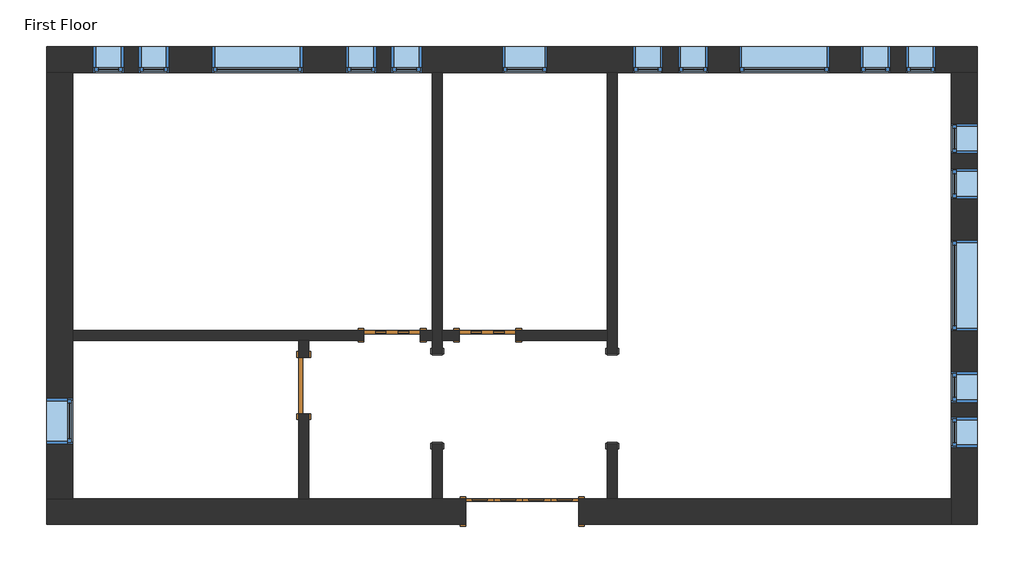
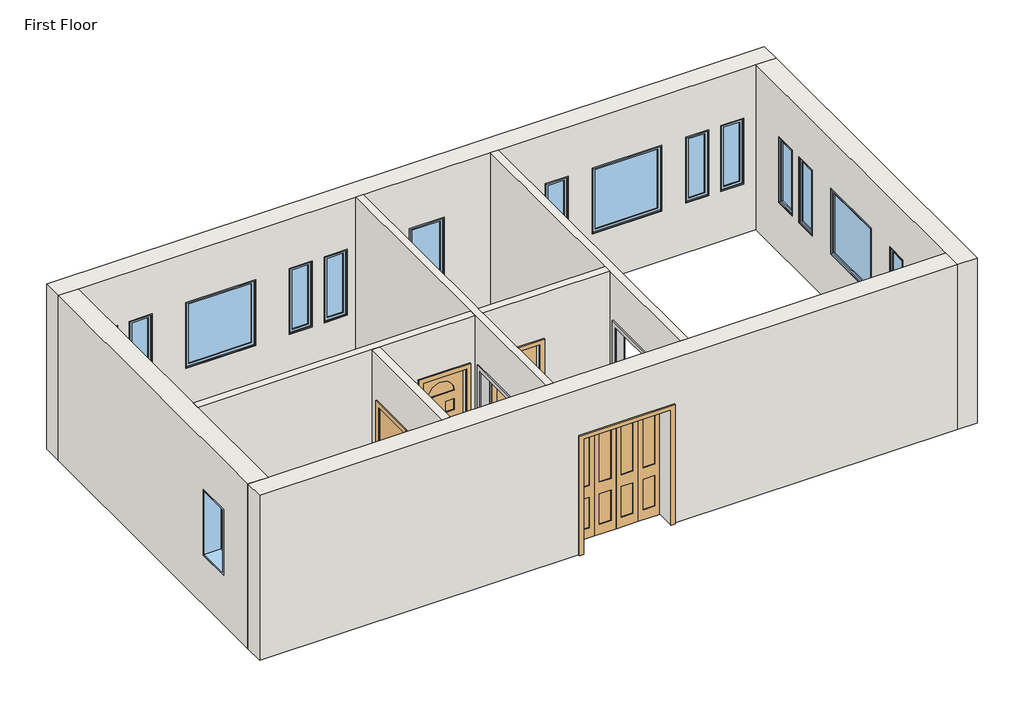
# One storey: 17 windows, 8 walls, 4 doors, 2 proxies.
"""IFC4 building model written with IfcOpenShell, lengths in millimetres."""

from ifc_helpers import new_model, si_unit, frame, origin, place, context, project, spatial, polyline, outline, extrude, faceted_brep, transform, mapped, element, save
from components import m_passage_opening_cased_1220_x_2134mm_87a8d9c2, m_bifold_4_panel_1525_x_2134mm_1ddae71f, m_single_decorative_2_0762_x_2134mm_0d0af7cb, m_single_decorative_2_0762_x_2134mm_2fe67c8e, m_single_flush_0762_x_2134mm_0d89e411, m_fixed_0406_x_1220mm_57fee329, m_fixed_0406_x_1220mm_85c28f40, m_fixed_0610_x_1220mm_2c28ef1d, m_fixed_1220_x_1220mm_e08ff7af

model = new_model("IFC4")

# Units and contexts
model_context = context("Model", 3, world=origin())
ifc_project = project(units=[si_unit("LENGTHUNIT", "METRE", prefix="MILLI")], contexts=[model_context])

# Site, building, storey
site = spatial("IfcSite", under=ifc_project)
building = spatial("IfcBuilding", under=site)
storey = spatial("IfcBuildingStorey", under=building, Name="First Floor", Elevation=0.0)

# Proxies
placement = place(None, origin())
m_passage_opening_cased_1220_x_2134mm_shape = m_passage_opening_cased_1220_x_2134mm_87a8d9c2(model_context)
element("IfcBuildingElementProxy", 1, Name="M_Passage Opening-Cased : 1220 x 2134mm", ObjectType="M_Passage Opening-Cased : 1220 x 2134mm", at=placement, inside=storey, context=model_context, shape_type="MappedRepresentation", body=[
    mapped(m_passage_opening_cased_1220_x_2134mm_shape, transform((-7665.3416203, -1982.6925047, 0.0), x_axis=(0.0, 1.0, 0.0), y_axis=(-1.0, 0.0, 0.0), z_axis=(0.0, 0.0, 1.0))),
])
element("IfcBuildingElementProxy", 2, Name="M_Passage Opening-Cased : 1220 x 2134mm", ObjectType="M_Passage Opening-Cased : 1220 x 2134mm", at=placement, inside=storey, context=model_context, shape_type="MappedRepresentation", body=[
    mapped(m_passage_opening_cased_1220_x_2134mm_shape, transform((-10019.0916203, -1999.0698181, 0.0), x_axis=(0.0, -1.0, 0.0), y_axis=(1.0, 0.0, 0.0), z_axis=(0.0, 0.0, 1.0))),
])

# Doors
m_bifold_4_panel_1525_x_2134mm_shape = m_bifold_4_panel_1525_x_2134mm_1ddae71f(model_context)
element("IfcDoor", 3, ObjectType="M_Bifold-4 Panel : 1525 x 2134mm", at=placement, inside=storey, context=model_context, shape_type="MappedRepresentation", body=[
    mapped(m_bifold_4_panel_1525_x_2134mm_shape, transform((-8876.0916203, -3514.8811614, 0.0), x_axis=(1.0, 0.0, 0.0), y_axis=(0.0, 1.0, 0.0), z_axis=(0.0, 0.0, 1.0))),
])
m_single_decorative_2_0762_x_2134mm_shape = m_single_decorative_2_0762_x_2134mm_0d0af7cb(model_context)
element("IfcDoor", 4, ObjectType="M_Single-Decorative 2 : 0762 x 2134mm", at=placement, inside=storey, context=model_context, shape_type="MappedRepresentation", body=[
    mapped(m_single_decorative_2_0762_x_2134mm_shape, transform((-9342.3416203, -1138.1311614, 0.0), x_axis=(-1.0, 0.0, 0.0), y_axis=(0.0, -1.0, 0.0), z_axis=(0.0, 0.0, 1.0))),
])
m_single_decorative_2_0762_x_2134mm_2_shape = m_single_decorative_2_0762_x_2134mm_2fe67c8e(model_context)
element("IfcDoor", 5, ObjectType="M_Single-Decorative 2 : 0762 x 2134mm", at=placement, inside=storey, context=model_context, shape_type="MappedRepresentation", body=[
    mapped(m_single_decorative_2_0762_x_2134mm_2_shape, transform((-10629.0916203, -1138.1311614, 0.0), x_axis=(1.0, 0.0, 0.0), y_axis=(0.0, 1.0, 0.0), z_axis=(0.0, 0.0, 1.0))),
])
m_single_flush_0762_x_2134mm_shape = m_single_flush_0762_x_2134mm_0d89e411(model_context)
element("IfcDoor", 6, ObjectType="M_Single-Flush : 0762 x 2134mm", at=placement, inside=storey, context=model_context, shape_type="MappedRepresentation", body=[
    mapped(m_single_flush_0762_x_2134mm_shape, transform((-11819.5916203, -1815.8811614, 0.0), x_axis=(0.0, 1.0, 0.0), y_axis=(-1.0, 0.0, 0.0), z_axis=(0.0, 0.0, 1.0))),
])

# Walls
element("IfcWall", 7, ObjectType="Exterior - Brick on Mtl. Stud", at=placement, inside=storey, context=model_context, shape_type="Brep", body=[
    faceted_brep([(-15285.3416203, 2406.1188386, 0.0), (-14935.3416203, 2406.1188386, 0.0), (-10086.8416203, 2406.1188386, 0.0), (-9951.3416203, 2406.1188386, 0.0), (-7733.0916203, 2406.1188386, 0.0), (-7597.5916203, 2406.1188386, 0.0), (-3093.3416203, 2406.1188386, 0.0), (-2743.3416203, 2406.1188386, 0.0), (-2743.3416203, 2406.1188386, 3048.0), (-3093.3416203, 2406.1188386, 3048.0), (-7597.5916203, 2406.1188386, 3048.0), (-7733.0916203, 2406.1188386, 3048.0), (-9951.3416203, 2406.1188386, 3048.0), (-10086.8416203, 2406.1188386, 3048.0), (-14935.3416203, 2406.1188386, 3048.0), (-15285.3416203, 2406.1188386, 3048.0), (-8537.1916203, 2406.1188386, 915.0), (-9147.1916203, 2406.1188386, 915.0), (-9147.1916203, 2406.1188386, 2135.0), (-8537.1916203, 2406.1188386, 2135.0), (-11833.3416203, 2406.1188386, 915.0), (-13053.3416203, 2406.1188386, 915.0), (-13053.3416203, 2406.1188386, 2135.0), (-11833.3416203, 2406.1188386, 2135.0), (-4735.4666203, 2406.1188386, 915.0), (-5955.4666203, 2406.1188386, 915.0), (-5955.4666203, 2406.1188386, 2135.0), (-4735.4666203, 2406.1188386, 2135.0), (-14247.3416203, 2406.1188386, 915.0), (-14653.3416203, 2406.1188386, 915.0), (-14653.3416203, 2406.1188386, 2135.0), (-14247.3416203, 2406.1188386, 2135.0), (-13637.3416203, 2406.1188386, 915.0), (-14043.3416203, 2406.1188386, 915.0), (-14043.3416203, 2406.1188386, 2135.0), (-13637.3416203, 2406.1188386, 2135.0), (-11249.3416203, 2406.1188386, 915.0), (-11249.3416203, 2406.1188386, 2135.0), (-10843.3416203, 2406.1188386, 2135.0), (-10843.3416203, 2406.1188386, 915.0), (-10639.3416203, 2406.1188386, 915.0), (-10639.3416203, 2406.1188386, 2135.0), (-10233.3416203, 2406.1188386, 2135.0), (-10233.3416203, 2406.1188386, 915.0), (-6370.3416203, 2406.1188386, 915.0), (-6776.3416203, 2406.1188386, 915.0), (-6776.3416203, 2406.1188386, 2135.0), (-6370.3416203, 2406.1188386, 2135.0), (-6980.3416203, 2406.1188386, 915.0), (-7386.3416203, 2406.1188386, 915.0), (-7386.3416203, 2406.1188386, 2135.0), (-6980.3416203, 2406.1188386, 2135.0), (-4320.5916203, 2406.1188386, 915.0), (-4320.5916203, 2406.1188386, 2135.0), (-3914.5916203, 2406.1188386, 2135.0), (-3914.5916203, 2406.1188386, 915.0), (-3710.5916203, 2406.1188386, 915.0), (-3710.5916203, 2406.1188386, 2135.0), (-3304.5916203, 2406.1188386, 2135.0), (-3304.5916203, 2406.1188386, 915.0), (-15285.3416203, 2756.1188386, 0.0), (-15285.3416203, 2756.1188386, 3048.0), (-2743.3416203, 2756.1188386, 3048.0), (-2743.3416203, 2756.1188386, 0.0), (-8537.1916203, 2756.1188386, 915.0), (-8537.1916203, 2756.1188386, 2135.0), (-9147.1916203, 2756.1188386, 2135.0), (-9147.1916203, 2756.1188386, 915.0), (-11833.3416203, 2756.1188386, 915.0), (-11833.3416203, 2756.1188386, 2135.0), (-13053.3416203, 2756.1188386, 2135.0), (-13053.3416203, 2756.1188386, 915.0), (-4735.4666203, 2756.1188386, 915.0), (-4735.4666203, 2756.1188386, 2135.0), (-5955.4666203, 2756.1188386, 2135.0), (-5955.4666203, 2756.1188386, 915.0), (-14247.3416203, 2756.1188386, 915.0), (-14247.3416203, 2756.1188386, 2135.0), (-14653.3416203, 2756.1188386, 2135.0), (-14653.3416203, 2756.1188386, 915.0), (-13637.3416203, 2756.1188386, 915.0), (-13637.3416203, 2756.1188386, 2135.0), (-14043.3416203, 2756.1188386, 2135.0), (-14043.3416203, 2756.1188386, 915.0), (-11249.3416203, 2756.1188386, 915.0), (-10843.3416203, 2756.1188386, 915.0), (-10843.3416203, 2756.1188386, 2135.0), (-11249.3416203, 2756.1188386, 2135.0), (-10639.3416203, 2756.1188386, 915.0), (-10233.3416203, 2756.1188386, 915.0), (-10233.3416203, 2756.1188386, 2135.0), (-10639.3416203, 2756.1188386, 2135.0), (-6370.3416203, 2756.1188386, 915.0), (-6370.3416203, 2756.1188386, 2135.0), (-6776.3416203, 2756.1188386, 2135.0), (-6776.3416203, 2756.1188386, 915.0), (-6980.3416203, 2756.1188386, 915.0), (-6980.3416203, 2756.1188386, 2135.0), (-7386.3416203, 2756.1188386, 2135.0), (-7386.3416203, 2756.1188386, 915.0), (-4320.5916203, 2756.1188386, 915.0), (-3914.5916203, 2756.1188386, 915.0), (-3914.5916203, 2756.1188386, 2135.0), (-4320.5916203, 2756.1188386, 2135.0), (-3710.5916203, 2756.1188386, 915.0), (-3304.5916203, 2756.1188386, 915.0), (-3304.5916203, 2756.1188386, 2135.0), (-3710.5916203, 2756.1188386, 2135.0)], [[[0, 1, 2, 3, 4, 5, 6, 7, 8, 9, 10, 11, 12, 13, 14, 15], [16, 17, 18, 19], [20, 21, 22, 23], [24, 25, 26, 27], [28, 29, 30, 31], [32, 33, 34, 35], [36, 37, 38, 39], [40, 41, 42, 43], [44, 45, 46, 47], [48, 49, 50, 51], [52, 53, 54, 55], [56, 57, 58, 59]], [[60, 61, 62, 63], [64, 65, 66, 67], [68, 69, 70, 71], [72, 73, 74, 75], [76, 77, 78, 79], [80, 81, 82, 83], [84, 85, 86, 87], [88, 89, 90, 91], [92, 93, 94, 95], [96, 97, 98, 99], [100, 101, 102, 103], [104, 105, 106, 107]], [[7, 6, 5, 4, 3, 2, 1, 0, 60, 63]], [[15, 14, 13, 12, 11, 10, 9, 8, 62, 61]], [[8, 7, 63, 62]], [[0, 15, 61, 60]], [[65, 64, 16, 19]], [[66, 65, 19, 18]], [[67, 66, 18, 17]], [[64, 67, 17, 16]], [[69, 68, 20, 23]], [[70, 69, 23, 22]], [[71, 70, 22, 21]], [[68, 71, 21, 20]], [[73, 72, 24, 27]], [[74, 73, 27, 26]], [[75, 74, 26, 25]], [[72, 75, 25, 24]], [[77, 76, 28, 31]], [[78, 77, 31, 30]], [[79, 78, 30, 29]], [[76, 79, 29, 28]], [[81, 80, 32, 35]], [[82, 81, 35, 34]], [[83, 82, 34, 33]], [[80, 83, 33, 32]], [[37, 36, 84, 87]], [[38, 37, 87, 86]], [[39, 38, 86, 85]], [[36, 39, 85, 84]], [[41, 40, 88, 91]], [[42, 41, 91, 90]], [[43, 42, 90, 89]], [[40, 43, 89, 88]], [[93, 92, 44, 47]], [[94, 93, 47, 46]], [[95, 94, 46, 45]], [[92, 95, 45, 44]], [[97, 96, 48, 51]], [[98, 97, 51, 50]], [[99, 98, 50, 49]], [[96, 99, 49, 48]], [[53, 52, 100, 103]], [[54, 53, 103, 102]], [[55, 54, 102, 101]], [[52, 55, 101, 100]], [[57, 56, 104, 107]], [[58, 57, 107, 106]], [[59, 58, 106, 105]], [[56, 59, 105, 104]]]),
])
element("IfcWall", 8, ObjectType="Exterior - Brick on Mtl. Stud", at=placement, inside=storey, context=model_context, shape_type="Brep", body=[
    faceted_brep([(-3093.3416203, 2406.1188386, 0.0), (-3093.3416203, -3339.8811614, 0.0), (-3093.3416203, -3689.8811614, 0.0), (-3093.3416203, -3689.8811614, 3048.0), (-3093.3416203, -3339.8811614, 3048.0), (-3093.3416203, 2406.1188386, 3048.0), (-3093.3416203, -1076.8811614, 915.0), (-3093.3416203, 143.1188386, 915.0), (-3093.3416203, 143.1188386, 2135.0), (-3093.3416203, -1076.8811614, 2135.0), (-3093.3416203, 701.1188386, 915.0), (-3093.3416203, 1107.1188386, 915.0), (-3093.3416203, 1107.1188386, 2135.0), (-3093.3416203, 701.1188386, 2135.0), (-3093.3416203, 1311.1188386, 915.0), (-3093.3416203, 1717.1188386, 915.0), (-3093.3416203, 1717.1188386, 2135.0), (-3093.3416203, 1311.1188386, 2135.0), (-3093.3416203, -1634.8811614, 915.0), (-3093.3416203, -1634.8811614, 2135.0), (-3093.3416203, -2040.8811614, 2135.0), (-3093.3416203, -2040.8811614, 915.0), (-3093.3416203, -2244.8811614, 915.0), (-3093.3416203, -2244.8811614, 2135.0), (-3093.3416203, -2650.8811614, 2135.0), (-3093.3416203, -2650.8811614, 915.0), (-2743.3416203, 2406.1188386, 0.0), (-2743.3416203, 2406.1188386, 3048.0), (-2743.3416203, -3689.8811614, 3048.0), (-2743.3416203, -3689.8811614, 0.0), (-2743.3416203, -1076.8811614, 915.0), (-2743.3416203, -1076.8811614, 2135.0), (-2743.3416203, 143.1188386, 2135.0), (-2743.3416203, 143.1188386, 915.0), (-2743.3416203, 701.1188386, 915.0), (-2743.3416203, 701.1188386, 2135.0), (-2743.3416203, 1107.1188386, 2135.0), (-2743.3416203, 1107.1188386, 915.0), (-2743.3416203, 1311.1188386, 915.0), (-2743.3416203, 1311.1188386, 2135.0), (-2743.3416203, 1717.1188386, 2135.0), (-2743.3416203, 1717.1188386, 915.0), (-2743.3416203, -1634.8811614, 915.0), (-2743.3416203, -2040.8811614, 915.0), (-2743.3416203, -2040.8811614, 2135.0), (-2743.3416203, -1634.8811614, 2135.0), (-2743.3416203, -2244.8811614, 915.0), (-2743.3416203, -2650.8811614, 915.0), (-2743.3416203, -2650.8811614, 2135.0), (-2743.3416203, -2244.8811614, 2135.0)], [[[0, 1, 2, 3, 4, 5], [6, 7, 8, 9], [10, 11, 12, 13], [14, 15, 16, 17], [18, 19, 20, 21], [22, 23, 24, 25]], [[26, 27, 28, 29], [30, 31, 32, 33], [34, 35, 36, 37], [38, 39, 40, 41], [42, 43, 44, 45], [46, 47, 48, 49]], [[2, 1, 0, 26, 29]], [[5, 4, 3, 28, 27]], [[0, 5, 27, 26]], [[3, 2, 29, 28]], [[31, 30, 6, 9]], [[32, 31, 9, 8]], [[33, 32, 8, 7]], [[30, 33, 7, 6]], [[35, 34, 10, 13]], [[36, 35, 13, 12]], [[37, 36, 12, 11]], [[34, 37, 11, 10]], [[39, 38, 14, 17]], [[40, 39, 17, 16]], [[41, 40, 16, 15]], [[38, 41, 15, 14]], [[19, 18, 42, 45]], [[20, 19, 45, 44]], [[21, 20, 44, 43]], [[18, 21, 43, 42]], [[23, 22, 46, 49]], [[24, 23, 49, 48]], [[25, 24, 48, 47]], [[22, 25, 47, 46]]]),
])
element("IfcWall", 9, ObjectType="Exterior - Brick on Mtl. Stud", at=placement, inside=storey, context=model_context, shape_type="Brep", body=[
    faceted_brep([(-15285.3416203, -3339.8811614, 3048.0), (-14935.3416203, -3339.8811614, 3048.0), (-11887.3416203, -3339.8811614, 3048.0), (-11751.8416203, -3339.8811614, 3048.0), (-10086.8416203, -3339.8811614, 3048.0), (-9951.3416203, -3339.8811614, 3048.0), (-7733.0916203, -3339.8811614, 3048.0), (-7597.5916203, -3339.8811614, 3048.0), (-3093.3416203, -3339.8811614, 3048.0), (-3093.3416203, -3339.8811614, 0.0), (-7597.5916203, -3339.8811614, 0.0), (-7733.0916203, -3339.8811614, 0.0), (-8113.5916203, -3339.8811614, 0.0), (-8113.5916203, -3339.8811614, 2134.0), (-9638.5916203, -3339.8811614, 2134.0), (-9638.5916203, -3339.8811614, 0.0), (-9951.3416203, -3339.8811614, 0.0), (-10086.8416203, -3339.8811614, 0.0), (-11751.8416203, -3339.8811614, 0.0), (-11887.3416203, -3339.8811614, 0.0), (-14935.3416203, -3339.8811614, 0.0), (-15285.3416203, -3339.8811614, 0.0), (-3093.3416203, -3689.8811614, 3048.0), (-15285.3416203, -3689.8811614, 3048.0), (-15285.3416203, -3689.8811614, 0.0), (-9638.5916203, -3689.8811614, 0.0), (-9638.5916203, -3689.8811614, 2134.0), (-8113.5916203, -3689.8811614, 2134.0), (-8113.5916203, -3689.8811614, 0.0), (-3093.3416203, -3689.8811614, 0.0)], [[[0, 1, 2, 3, 4, 5, 6, 7, 8, 9, 10, 11, 12, 13, 14, 15, 16, 17, 18, 19, 20, 21]], [[22, 23, 24, 25, 26, 27, 28, 29]], [[9, 29, 28, 12, 11, 10]], [[24, 21, 20, 19, 18, 17, 16, 15, 25]], [[8, 7, 6, 5, 4, 3, 2, 1, 0, 23, 22]], [[9, 8, 22, 29]], [[0, 21, 24, 23]], [[27, 13, 12, 28]], [[13, 27, 26, 14]], [[14, 26, 25, 15]]]),
])
element("IfcWall", 10, ObjectType="Exterior - Brick on Mtl. Stud", at=placement, inside=storey, context=model_context, shape_type="Brep", body=[
    faceted_brep([(-14935.3416203, -3339.8811614, 0.0), (-14935.3416203, -1205.8811614, 0.0), (-14935.3416203, -1070.3811614, 0.0), (-14935.3416203, 2406.1188386, 0.0), (-14935.3416203, 2406.1188386, 3048.0), (-14935.3416203, -1070.3811614, 3048.0), (-14935.3416203, -1205.8811614, 3048.0), (-14935.3416203, -3339.8811614, 3048.0), (-14935.3416203, -1989.8811614, 915.0), (-14935.3416203, -2599.8811614, 915.0), (-14935.3416203, -2599.8811614, 2135.0), (-14935.3416203, -1989.8811614, 2135.0), (-15285.3416203, -3339.8811614, 0.0), (-15285.3416203, -3339.8811614, 3048.0), (-15285.3416203, 2406.1188386, 3048.0), (-15285.3416203, 2406.1188386, 0.0), (-15285.3416203, -1989.8811614, 915.0), (-15285.3416203, -1989.8811614, 2135.0), (-15285.3416203, -2599.8811614, 2135.0), (-15285.3416203, -2599.8811614, 915.0)], [[[0, 1, 2, 3, 4, 5, 6, 7], [8, 9, 10, 11]], [[12, 13, 14, 15], [16, 17, 18, 19]], [[3, 2, 1, 0, 12, 15]], [[7, 6, 5, 4, 14, 13]], [[0, 7, 13, 12]], [[4, 3, 15, 14]], [[17, 16, 8, 11]], [[18, 17, 11, 10]], [[19, 18, 10, 9]], [[16, 19, 9, 8]]]),
])
element("IfcWall", 11, ObjectType="Interior - 135mm Partition (2-hr)", at=placement, inside=storey, context=model_context, shape_type="Brep", body=[
    faceted_brep([(-7733.0916203, 2406.1188386, 0.0), (-7733.0916203, -1070.3811614, 0.0), (-7733.0916203, -1205.8811614, 0.0), (-7733.0916203, -1380.8811614, 0.0), (-7733.0916203, -1380.8811614, 2134.0), (-7733.0916203, -2600.8811614, 2134.0), (-7733.0916203, -2600.8811614, 0.0), (-7733.0916203, -3339.8811614, 0.0), (-7733.0916203, -3339.8811614, 3048.0), (-7733.0916203, -1205.8811614, 3048.0), (-7733.0916203, -1070.3811614, 3048.0), (-7733.0916203, 2406.1188386, 3048.0), (-7597.5916203, -1380.8811614, 2134.0), (-7597.5916203, -1380.8811614, 0.0), (-7597.5916203, 2406.1188386, 0.0), (-7597.5916203, 2406.1188386, 3048.0), (-7597.5916203, -3339.8811614, 3048.0), (-7597.5916203, -3339.8811614, 0.0), (-7597.5916203, -2600.8811614, 0.0), (-7597.5916203, -2600.8811614, 2134.0)], [[[0, 1, 2, 3, 4, 5, 6, 7, 8, 9, 10, 11]], [[12, 13, 14, 15, 16, 17, 18, 19]], [[18, 17, 7, 6]], [[14, 13, 3, 2, 1, 0]], [[11, 10, 9, 8, 16, 15]], [[0, 11, 15, 14]], [[8, 7, 17, 16]], [[6, 5, 19, 18]], [[4, 3, 13, 12]], [[5, 4, 12, 19]]]),
])
element("IfcWall", 12, ObjectType="Interior - 135mm Partition (2-hr)", at=placement, inside=storey, context=model_context, shape_type="Brep", body=[
    faceted_brep([(-10086.8416203, -2600.8811614, 2134.0), (-10086.8416203, -2600.8811614, 0.0), (-10086.8416203, -3339.8811614, 0.0), (-10086.8416203, -3339.8811614, 3048.0), (-10086.8416203, -1205.8811614, 3048.0), (-10086.8416203, -1070.3811614, 3048.0), (-10086.8416203, 2406.1188386, 3048.0), (-10086.8416203, 2406.1188386, 0.0), (-10086.8416203, -1070.3811614, 0.0), (-10086.8416203, -1205.8811614, 0.0), (-10086.8416203, -1380.8811614, 0.0), (-10086.8416203, -1380.8811614, 2134.0), (-9951.3416203, -3339.8811614, 0.0), (-9951.3416203, -2600.8811614, 0.0), (-9951.3416203, -2600.8811614, 2134.0), (-9951.3416203, -1380.8811614, 2134.0), (-9951.3416203, -1380.8811614, 0.0), (-9951.3416203, -1205.8811614, 0.0), (-9951.3416203, -1070.3811614, 0.0), (-9951.3416203, 2406.1188386, 0.0), (-9951.3416203, 2406.1188386, 3048.0), (-9951.3416203, -1070.3811614, 3048.0), (-9951.3416203, -1205.8811614, 3048.0), (-9951.3416203, -3339.8811614, 3048.0)], [[[0, 1, 2, 3, 4, 5, 6, 7, 8, 9, 10, 11]], [[12, 13, 14, 15, 16, 17, 18, 19, 20, 21, 22, 23]], [[2, 1, 13, 12]], [[10, 9, 8, 7, 19, 18, 17, 16]], [[6, 5, 4, 3, 23, 22, 21, 20]], [[7, 6, 20, 19]], [[3, 2, 12, 23]], [[16, 15, 11, 10]], [[14, 13, 1, 0]], [[15, 14, 0, 11]]]),
])
element("IfcWall", 13, ObjectType="Interior - 135mm Partition (2-hr)", at=placement, inside=storey, context=model_context, shape_type="Brep", body=[
    faceted_brep([(-14935.3416203, -1205.8811614, 3048.0), (-14935.3416203, -1205.8811614, 0.0), (-11887.3416203, -1205.8811614, 0.0), (-11751.8416203, -1205.8811614, 0.0), (-11010.0916203, -1205.8811614, 0.0), (-11010.0916203, -1205.8811614, 2134.0), (-10248.0916203, -1205.8811614, 2134.0), (-10248.0916203, -1205.8811614, 0.0), (-10086.8416203, -1205.8811614, 0.0), (-10086.8416203, -1205.8811614, 3048.0), (-11751.8416203, -1205.8811614, 3048.0), (-11887.3416203, -1205.8811614, 3048.0), (-14935.3416203, -1070.3811614, 0.0), (-14935.3416203, -1070.3811614, 3048.0), (-10086.8416203, -1070.3811614, 3048.0), (-10086.8416203, -1070.3811614, 0.0), (-10248.0916203, -1070.3811614, 0.0), (-10248.0916203, -1070.3811614, 2134.0), (-11010.0916203, -1070.3811614, 2134.0), (-11010.0916203, -1070.3811614, 0.0)], [[[0, 1, 2, 3, 4, 5, 6, 7, 8, 9, 10, 11]], [[12, 13, 14, 15, 16, 17, 18, 19]], [[1, 12, 19, 4, 3, 2]], [[7, 16, 15, 8]], [[13, 0, 11, 10, 9, 14]], [[1, 0, 13, 12]], [[9, 8, 15, 14]], [[17, 16, 7, 6]], [[18, 17, 6, 5]], [[19, 18, 5, 4]]]),
    faceted_brep([(-7733.0916203, -1205.8811614, 0.0), (-7733.0916203, -1205.8811614, 3048.0), (-9951.3416203, -1205.8811614, 3048.0), (-9951.3416203, -1205.8811614, 0.0), (-9723.3416203, -1205.8811614, 0.0), (-9723.3416203, -1205.8811614, 2134.0), (-8961.3416203, -1205.8811614, 2134.0), (-8961.3416203, -1205.8811614, 0.0), (-7733.0916203, -1070.3811614, 3048.0), (-7733.0916203, -1070.3811614, 0.0), (-8961.3416203, -1070.3811614, 0.0), (-8961.3416203, -1070.3811614, 2134.0), (-9723.3416203, -1070.3811614, 2134.0), (-9723.3416203, -1070.3811614, 0.0), (-9951.3416203, -1070.3811614, 0.0), (-9951.3416203, -1070.3811614, 3048.0)], [[[0, 1, 2, 3, 4, 5, 6, 7]], [[8, 9, 10, 11, 12, 13, 14, 15]], [[9, 0, 7, 10]], [[13, 4, 3, 14]], [[1, 8, 15, 2]], [[1, 0, 9, 8]], [[3, 2, 15, 14]], [[5, 4, 13, 12]], [[6, 5, 12, 11]], [[7, 6, 11, 10]]]),
])
element("IfcWall", 14, ObjectType="Interior - 135mm Partition (2-hr)", at=placement, inside=storey, context=model_context, shape_type="SweptSolid", body=[
    extrude(outline(polyline([(-1205.8811614, 0.0), (-1434.8811614, 0.0), (-1434.8811614, 2134.0), (-2196.8811614, 2134.0), (-2196.8811614, 0.0), (-3339.8811614, 0.0), (-3339.8811614, 3048.0), (-1205.8811614, 3048.0), (-1205.8811614, 0.0)])), frame((-11887.3416203, 0.0, 0.0), z_axis=(1.0, 0.0, 0.0), x_axis=(0.0, 1.0, 0.0)), (0.0, 0.0, 1.0), 135.5),
])

# Windows
m_fixed_0406_x_1220mm_shape = m_fixed_0406_x_1220mm_57fee329(model_context)
element("IfcWindow", 15, ObjectType="M_Fixed : 0406 x 1220mm", at=placement, inside=storey, context=model_context, shape_type="MappedRepresentation", body=[
    mapped(m_fixed_0406_x_1220mm_shape, transform((-14450.3416203, 2594.1188386, 0.0), x_axis=(-1.0, 0.0, 0.0), y_axis=(0.0, -1.0, 0.0), z_axis=(0.0, 0.0, 1.0))),
])
element("IfcWindow", 16, ObjectType="M_Fixed : 0406 x 1220mm", at=placement, inside=storey, context=model_context, shape_type="MappedRepresentation", body=[
    mapped(m_fixed_0406_x_1220mm_shape, transform((-13840.3416203, 2594.1188386, 0.0), x_axis=(-1.0, 0.0, 0.0), y_axis=(0.0, -1.0, 0.0), z_axis=(0.0, 0.0, 1.0))),
])
element("IfcWindow", 17, ObjectType="M_Fixed : 0406 x 1220mm", at=placement, inside=storey, context=model_context, shape_type="MappedRepresentation", body=[
    mapped(m_fixed_0406_x_1220mm_shape, transform((-7183.3416203, 2594.1188386, 0.0), x_axis=(-1.0, 0.0, 0.0), y_axis=(0.0, -1.0, 0.0), z_axis=(0.0, 0.0, 1.0))),
])
element("IfcWindow", 18, ObjectType="M_Fixed : 0406 x 1220mm", at=placement, inside=storey, context=model_context, shape_type="MappedRepresentation", body=[
    mapped(m_fixed_0406_x_1220mm_shape, transform((-6573.3416203, 2594.1188386, 0.0), x_axis=(-1.0, 0.0, 0.0), y_axis=(0.0, -1.0, 0.0), z_axis=(0.0, 0.0, 1.0))),
])
element("IfcWindow", 19, ObjectType="M_Fixed : 0406 x 1220mm", at=placement, inside=storey, context=model_context, shape_type="MappedRepresentation", body=[
    mapped(m_fixed_0406_x_1220mm_shape, transform((-2905.3416203, 1514.1188386, 0.0), x_axis=(0.0, 1.0, 0.0), y_axis=(-1.0, 0.0, 0.0), z_axis=(0.0, 0.0, 1.0))),
])
element("IfcWindow", 20, ObjectType="M_Fixed : 0406 x 1220mm", at=placement, inside=storey, context=model_context, shape_type="MappedRepresentation", body=[
    mapped(m_fixed_0406_x_1220mm_shape, transform((-2905.3416203, 904.1188386, 0.0), x_axis=(0.0, 1.0, 0.0), y_axis=(-1.0, 0.0, 0.0), z_axis=(0.0, 0.0, 1.0))),
])
m_fixed_0406_x_1220mm_2_shape = m_fixed_0406_x_1220mm_85c28f40(model_context)
element("IfcWindow", 21, ObjectType="M_Fixed : 0406 x 1220mm", at=placement, inside=storey, context=model_context, shape_type="MappedRepresentation", body=[
    mapped(m_fixed_0406_x_1220mm_2_shape, transform((-10436.3416203, 2594.1188386, 0.0), x_axis=(1.0, 0.0, 0.0), y_axis=(0.0, 1.0, 0.0), z_axis=(0.0, 0.0, 1.0))),
])
element("IfcWindow", 22, ObjectType="M_Fixed : 0406 x 1220mm", at=placement, inside=storey, context=model_context, shape_type="MappedRepresentation", body=[
    mapped(m_fixed_0406_x_1220mm_2_shape, transform((-11046.3416203, 2594.1188386, 0.0), x_axis=(1.0, 0.0, 0.0), y_axis=(0.0, 1.0, 0.0), z_axis=(0.0, 0.0, 1.0))),
])
element("IfcWindow", 23, ObjectType="M_Fixed : 0406 x 1220mm", at=placement, inside=storey, context=model_context, shape_type="MappedRepresentation", body=[
    mapped(m_fixed_0406_x_1220mm_2_shape, transform((-3507.5916203, 2594.1188386, 0.0), x_axis=(1.0, 0.0, 0.0), y_axis=(0.0, 1.0, 0.0), z_axis=(0.0, 0.0, 1.0))),
])
element("IfcWindow", 24, ObjectType="M_Fixed : 0406 x 1220mm", at=placement, inside=storey, context=model_context, shape_type="MappedRepresentation", body=[
    mapped(m_fixed_0406_x_1220mm_2_shape, transform((-4117.5916203, 2594.1188386, 0.0), x_axis=(1.0, 0.0, 0.0), y_axis=(0.0, 1.0, 0.0), z_axis=(0.0, 0.0, 1.0))),
])
element("IfcWindow", 25, ObjectType="M_Fixed : 0406 x 1220mm", at=placement, inside=storey, context=model_context, shape_type="MappedRepresentation", body=[
    mapped(m_fixed_0406_x_1220mm_2_shape, transform((-2905.3416203, -2447.8811614, 0.0), x_axis=(0.0, -1.0, 0.0), y_axis=(1.0, 0.0, 0.0), z_axis=(0.0, 0.0, 1.0))),
])
element("IfcWindow", 26, ObjectType="M_Fixed : 0406 x 1220mm", at=placement, inside=storey, context=model_context, shape_type="MappedRepresentation", body=[
    mapped(m_fixed_0406_x_1220mm_2_shape, transform((-2905.3416203, -1837.8811614, 0.0), x_axis=(0.0, -1.0, 0.0), y_axis=(1.0, 0.0, 0.0), z_axis=(0.0, 0.0, 1.0))),
])
m_fixed_0610_x_1220mm_shape = m_fixed_0610_x_1220mm_2c28ef1d(model_context)
element("IfcWindow", 27, ObjectType="M_Fixed : 0610 x 1220mm", at=placement, inside=storey, context=model_context, shape_type="MappedRepresentation", body=[
    mapped(m_fixed_0610_x_1220mm_shape, transform((-8842.1916203, 2594.1188386, 0.0), x_axis=(-1.0, 0.0, 0.0), y_axis=(0.0, -1.0, 0.0), z_axis=(0.0, 0.0, 1.0))),
])
element("IfcWindow", 28, ObjectType="M_Fixed : 0610 x 1220mm", at=placement, inside=storey, context=model_context, shape_type="MappedRepresentation", body=[
    mapped(m_fixed_0610_x_1220mm_shape, transform((-15123.3416203, -2294.8811614, 0.0), x_axis=(0.0, -1.0, 0.0), y_axis=(1.0, 0.0, 0.0), z_axis=(0.0, 0.0, 1.0))),
])
m_fixed_1220_x_1220mm_shape = m_fixed_1220_x_1220mm_e08ff7af(model_context)
element("IfcWindow", 29, ObjectType="M_Fixed : 1220 x 1220mm", at=placement, inside=storey, context=model_context, shape_type="MappedRepresentation", body=[
    mapped(m_fixed_1220_x_1220mm_shape, transform((-12443.3416203, 2594.1188386, 0.0), x_axis=(-1.0, 0.0, 0.0), y_axis=(0.0, -1.0, 0.0), z_axis=(0.0, 0.0, 1.0))),
])
element("IfcWindow", 30, ObjectType="M_Fixed : 1220 x 1220mm", at=placement, inside=storey, context=model_context, shape_type="MappedRepresentation", body=[
    mapped(m_fixed_1220_x_1220mm_shape, transform((-5345.4666203, 2594.1188386, 0.0), x_axis=(-1.0, 0.0, 0.0), y_axis=(0.0, -1.0, 0.0), z_axis=(0.0, 0.0, 1.0))),
])
element("IfcWindow", 31, ObjectType="M_Fixed : 1220 x 1220mm", at=placement, inside=storey, context=model_context, shape_type="MappedRepresentation", body=[
    mapped(m_fixed_1220_x_1220mm_shape, transform((-2905.3416203, -466.8811614, 0.0), x_axis=(0.0, 1.0, 0.0), y_axis=(-1.0, 0.0, 0.0), z_axis=(0.0, 0.0, 1.0))),
])

save(model, "model.ifc")
